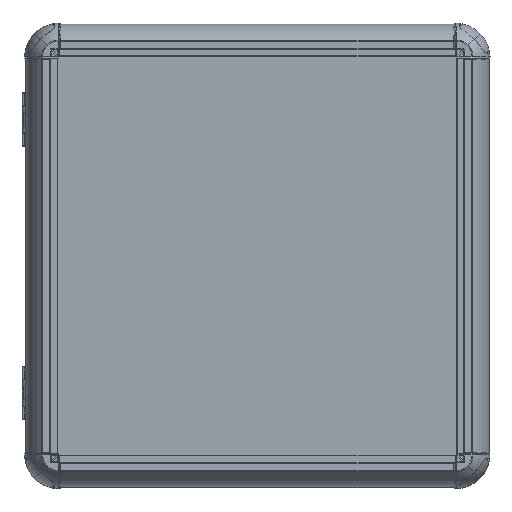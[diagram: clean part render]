
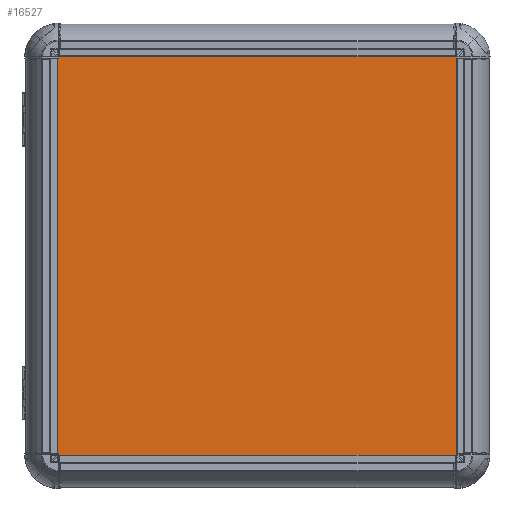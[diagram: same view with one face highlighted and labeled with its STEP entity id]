
A CAD part, top view. The second image highlights one B-rep face of the part: STEP entity #16527.
In plain terms, the highlighted planar face has unit normal (0, 0, 1).
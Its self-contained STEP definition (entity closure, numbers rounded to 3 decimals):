
#1640 = LINE ( 'NONE', #76660, #41799 ) ;
#2869 = DIRECTION ( 'NONE',  ( 0., 0., 1. ) ) ;
#3266 = AXIS2_PLACEMENT_3D ( 'NONE', #141288, #2869, #112948 ) ;
#5756 = VERTEX_POINT ( 'NONE', #144343 ) ;
#9781 = DIRECTION ( 'NONE',  ( 0., 1., 0. ) ) ;
#12051 = DIRECTION ( 'NONE',  ( 0., -1., 0. ) ) ;
#13471 = EDGE_CURVE ( 'NONE', #5756, #111609, #80882, .T. ) ;
#15176 = CARTESIAN_POINT ( 'NONE',  ( 150., 150., 2. ) ) ;
#15657 = FACE_OUTER_BOUND ( 'NONE', #37357, .T. ) ;
#16527 = ADVANCED_FACE ( 'NONE', ( #15657 ), #50621, .T. ) ;
#19000 = LINE ( 'NONE', #43635, #157218 ) ;
#21729 = CARTESIAN_POINT ( 'NONE',  ( 150., 150., 2. ) ) ;
#32273 = DIRECTION ( 'NONE',  ( 1., 0., 0. ) ) ;
#35356 = LINE ( 'NONE', #44215, #148946 ) ;
#37357 = EDGE_LOOP ( 'NONE', ( #43420, #102237, #149630, #51699 ) ) ;
#41799 = VECTOR ( 'NONE', #12051, 1000. ) ;
#42425 = EDGE_CURVE ( 'NONE', #94343, #5756, #35356, .T. ) ;
#42893 = EDGE_CURVE ( 'NONE', #111609, #146027, #19000, .T. ) ;
#43420 = ORIENTED_EDGE ( 'NONE', *, *, #13471, .T. ) ;
#43635 = CARTESIAN_POINT ( 'NONE',  ( -150., 150., 2. ) ) ;
#44215 = CARTESIAN_POINT ( 'NONE',  ( -150., -150., 2. ) ) ;
#44745 = VECTOR ( 'NONE', #9781, 1000. ) ;
#46026 = CARTESIAN_POINT ( 'NONE',  ( -150., 150., 2. ) ) ;
#50621 = PLANE ( 'NONE',  #3266 ) ;
#51699 = ORIENTED_EDGE ( 'NONE', *, *, #42425, .T. ) ;
#56426 = DIRECTION ( 'NONE',  ( -1., 0., 0. ) ) ;
#70546 = CARTESIAN_POINT ( 'NONE',  ( -150., -150., 2. ) ) ;
#76660 = CARTESIAN_POINT ( 'NONE',  ( -150., 150., 2. ) ) ;
#80882 = LINE ( 'NONE', #21729, #44745 ) ;
#86225 = EDGE_CURVE ( 'NONE', #146027, #94343, #1640, .T. ) ;
#94343 = VERTEX_POINT ( 'NONE', #70546 ) ;
#102237 = ORIENTED_EDGE ( 'NONE', *, *, #42893, .T. ) ;
#111609 = VERTEX_POINT ( 'NONE', #15176 ) ;
#112948 = DIRECTION ( 'NONE',  ( 1., 0., 0. ) ) ;
#141288 = CARTESIAN_POINT ( 'NONE',  ( 0., 0., 2. ) ) ;
#144343 = CARTESIAN_POINT ( 'NONE',  ( 150., -150., 2. ) ) ;
#146027 = VERTEX_POINT ( 'NONE', #46026 ) ;
#148946 = VECTOR ( 'NONE', #32273, 1000. ) ;
#149630 = ORIENTED_EDGE ( 'NONE', *, *, #86225, .T. ) ;
#157218 = VECTOR ( 'NONE', #56426, 1000. ) ;
